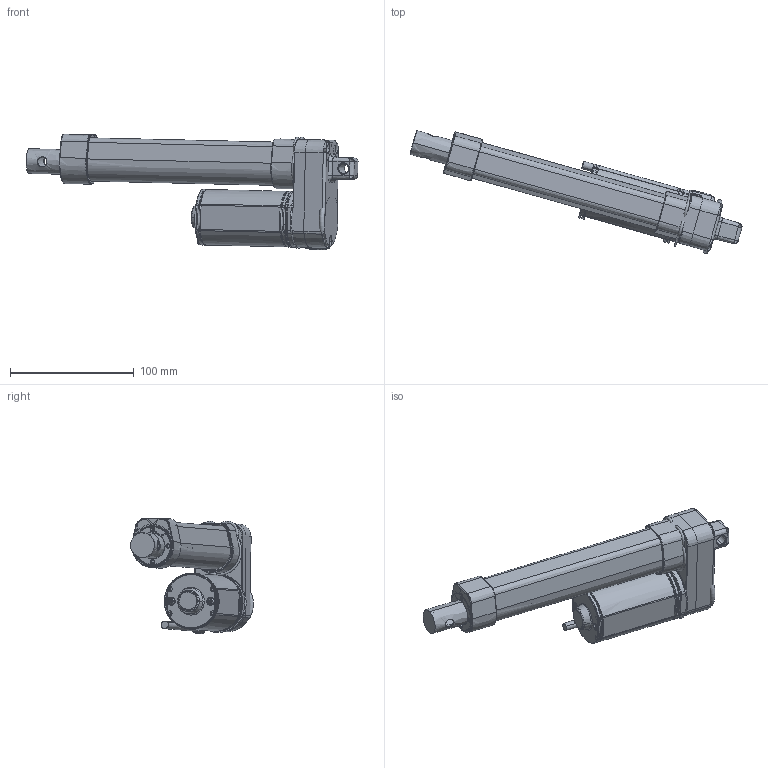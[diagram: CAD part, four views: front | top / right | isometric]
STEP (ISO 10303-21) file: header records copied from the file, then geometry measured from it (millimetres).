
FILE_DESCRIPTION((''),'2;1');
FILE_NAME('MD10_ASM','2017-08-01T',('user'),(''),'PRO/ENGINEER BY PARAMETRIC TECHNOLOGY CORPORATION, 2008090','PRO/ENGINEER BY PARAMETRIC TECHNOLOGY CORPORATION, 2008090','');
FILE_SCHEMA(('CONFIG_CONTROL_DESIGN'));
Products named in the file (3): PRT0003; PRT0004; MD10_ASM
Assembly tree (2 placements, depth 2):
  MD10_ASM
    PRT0003
    PRT0004
Bounding box: 268.13 x 99.23 x 93.43 mm (x, y, z)
Surface area: 164202.2 mm2 (no closed solid volume)
Topology: 0 solids, 0 shells, 1140 faces, 6146 edges, 6062 vertices
Faces by surface type: bspline 1045, torus 87, sphere 8
Entity records: 129553 total; most frequent: CARTESIAN_POINT 65130, DIRECTION 11073, TRIMMED_CURVE 9326, VECTOR 7779, LINE 7779, DEFINITIONAL_REPRESENTATION 5974, PCURVE 5974, COMPOSITE_CURVE_SEGMENT 5974
